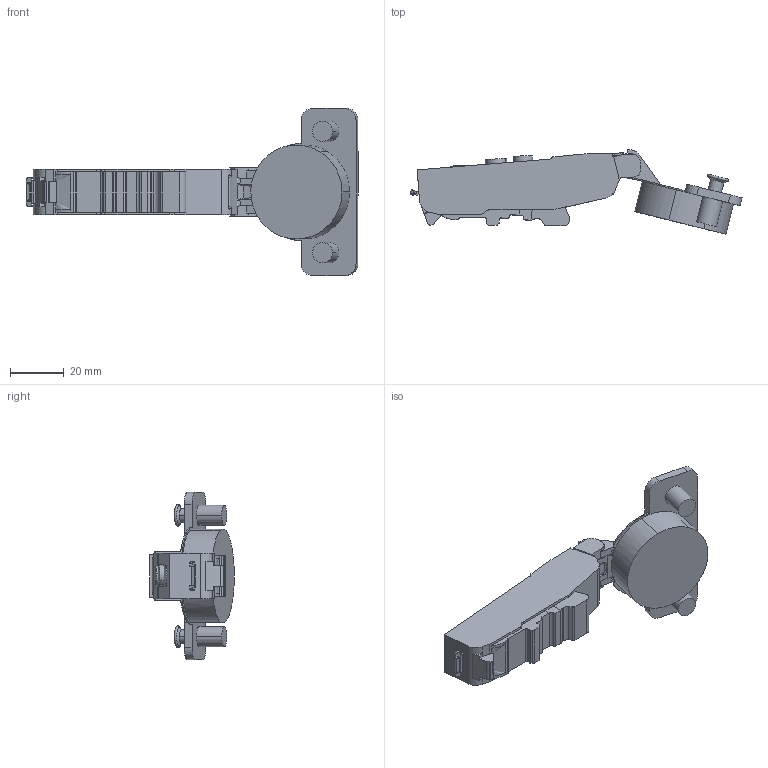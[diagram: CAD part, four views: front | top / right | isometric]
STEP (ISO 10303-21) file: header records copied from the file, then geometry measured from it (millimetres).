
FILE_DESCRIPTION (( 'STEP AP203' ), '1' );
FILE_NAME ('C81B875KFAB DTC 3D OPEN.STEP', '2024-07-24T09:03:15', ( '微软用户' ), ( '微软中国' ), 'SwSTEP 2.0', 'SolidWorks 2021', '' );
FILE_SCHEMA (( 'CONFIG_CONTROL_DESIGN' ));
Length unit declared in the file: millimetre
Products named in the file (1): C81B875KFAB DTC 3D OPEN
Bounding box: 122.99 x 31.32 x 62 mm (x, y, z)
Volume: 42787.1 mm3; surface area: 13128.1 mm2
Topology: 1 solids, 1 shells, 337 faces, 968 edges, 637 vertices
Faces by surface type: cylinder 144, plane 142, torus 22, bspline 19, cone 10
Entity records: 12121 total; most frequent: CARTESIAN_POINT 3368, ORIENTED_EDGE 1936, DIRECTION 1725, EDGE_CURVE 968, VERTEX_POINT 637, AXIS2_PLACEMENT_3D 613, VECTOR 499, LINE 499
